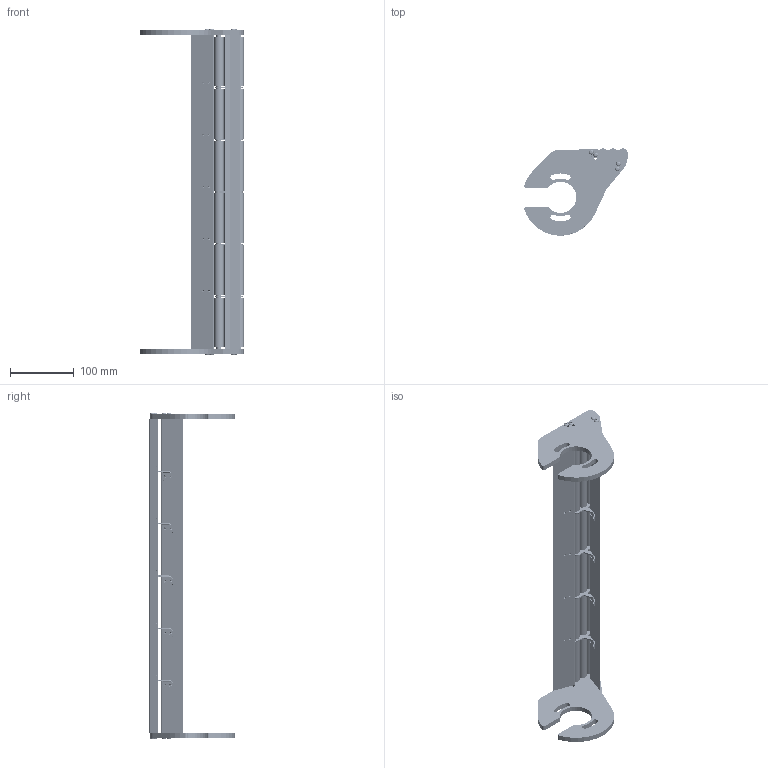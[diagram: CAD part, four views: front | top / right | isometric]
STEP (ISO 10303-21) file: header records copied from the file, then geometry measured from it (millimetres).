
FILE_DESCRIPTION (( 'STEP AP214' ), '1' );
FILE_NAME ('F2 1800 TGRI 1R.STEP', '2024-02-26T14:54:15', ( '' ), ( '' ), 'SwSTEP 2.0', 'SolidWorks 2022', '' );
FILE_SCHEMA (( 'AUTOMOTIVE_DESIGN' ));
Length unit declared in the file: millimetre
Products named in the file (13): ENTRETOISE SA TGRI; PT-F2 - F2-1800 ALU; TBHC 4X16; SA TGRI; ROULEMENT TGRI CAB-F2-R-HEF; ENTRETOISE TGRI CAB-F2-R-HEF; Galet + roulement F2 1800; SA TGRI + ENTRETOISE; PSTI F2 1R Symétrie; AXE TGRI F2 1800; F2 1800 TGRI 1R; GR F2 1800; PSTI F2 1R
Assembly tree (51 placements, depth 3):
  F2 1800 TGRI 1R
    PSTI F2 1R
    PSTI F2 1R Symétrie
    PT-F2 - F2-1800 ALU  x2
    AXE TGRI F2 1800  x3
    ENTRETOISE TGRI CAB-F2-R-HEF  x6
    SA TGRI + ENTRETOISE  x5
      SA TGRI
      ENTRETOISE SA TGRI
    Galet + roulement F2 1800  x18
      GR F2 1800
      ROULEMENT TGRI CAB-F2-R-HEF
    TBHC 4X16  x8
Bounding box: 162.87 x 136.6 x 514.78 mm (x, y, z)
Volume: 669211.7 mm3; surface area: 315188.2 mm2
Topology: 95 solids, 95 shells, 3351 faces, 7493 edges, 4457 vertices
Faces by surface type: cylinder 1155, cone 1016, plane 571, torus 519, sphere 65, bspline 25
Entity records: 17013 total; most frequent: CARTESIAN_POINT 3187, DIRECTION 3026, ORIENTED_EDGE 2494, EDGE_CURVE 1247, AXIS2_PLACEMENT_3D 1233, VERTEX_POINT 755, CIRCLE 649, EDGE_LOOP 586
